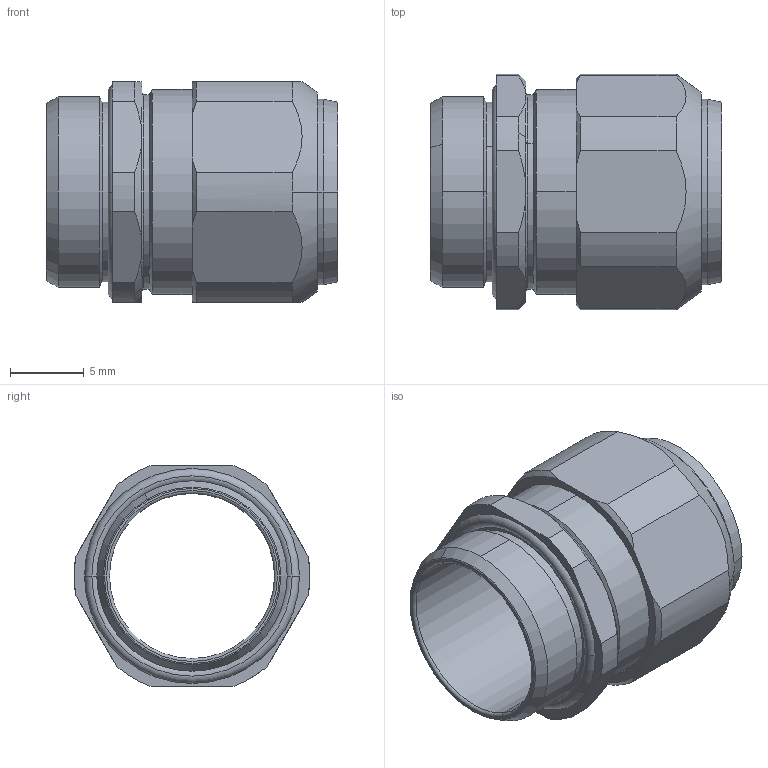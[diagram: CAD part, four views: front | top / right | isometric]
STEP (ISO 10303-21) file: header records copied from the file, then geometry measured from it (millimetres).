
FILE_DESCRIPTION(('Creo Elements/Direct Modeling STEP Export'),'2;1');
FILE_NAME('H20-0017-CL901-00_OA-WS13M-95／110.stp','2021-10-14T17:15:19',(''),(''),'Creo Elements/Direct Modeling STEP processor for AP214 (Solid Model)','Creo Elements/Direct Modeling 20.3B 05-Dec-2020 (C) Parametric Technology GmbH','');
FILE_SCHEMA(('AUTOMOTIVE_DESIGN { 1 0 10303 214 1 1 1 1 }'));
Length unit declared in the file: millimetre
Products named in the file (2): H20-0017-CL901-00_OA-WS13M-95／110
Assembly tree (1 placements, depth 2):
  H20-0017-CL901-00_OA-WS13M-95／110
    H20-0017-CL901-00_OA-WS13M-95／110
Bounding box: 19.8 x 16 x 15 mm (x, y, z)
Volume: 1240.3 mm3; surface area: 1991.2 mm2
Topology: 1 solids, 1 shells, 120 faces, 283 edges, 177 vertices
Faces by surface type: cylinder 42, torus 28, plane 26, cone 24
Entity records: 3365 total; most frequent: CARTESIAN_POINT 882, ORIENTED_EDGE 566, DIRECTION 444, EDGE_CURVE 283, AXIS2_PLACEMENT_3D 183, VERTEX_POINT 177, EDGE_LOOP 134, FACE_OUTER_BOUND 120
